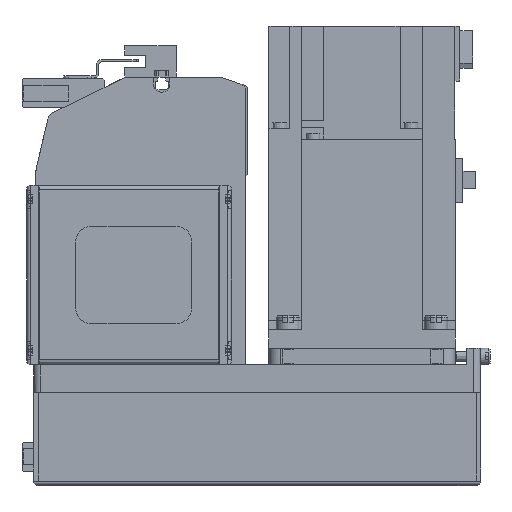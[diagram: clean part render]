
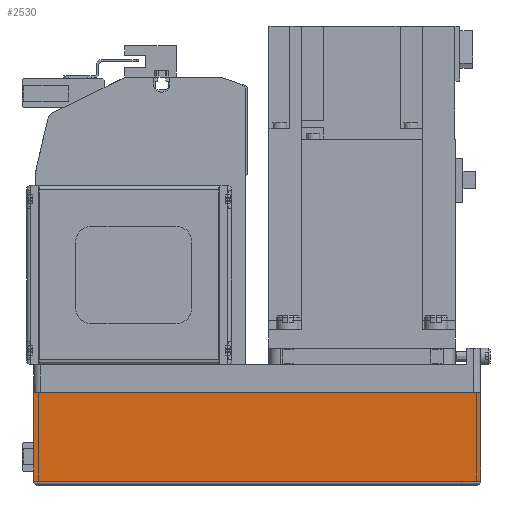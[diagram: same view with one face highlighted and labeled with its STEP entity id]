
A CAD part, left-side view. The second image highlights one B-rep face of the part: STEP entity #2530.
In plain terms, the highlighted planar face has unit normal (-1, 0, 0) as drawn and (0, 1, 0) by its records, which use the part's own axes.
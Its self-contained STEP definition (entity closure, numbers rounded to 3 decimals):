
#2530 = ADVANCED_FACE( '', ( #5687 ), #5688, .T. );
#5687 = FACE_OUTER_BOUND( '', #9429, .T. );
#5688 = PLANE( '', #9430 );
#9429 = EDGE_LOOP( '', ( #16637, #16638, #16639, #16640 ) );
#9430 = AXIS2_PLACEMENT_3D( '', #16641, #16642, #16643 );
#16637 = ORIENTED_EDGE( '', *, *, #23117, .F. );
#16638 = ORIENTED_EDGE( '', *, *, #21150, .F. );
#16639 = ORIENTED_EDGE( '', *, *, #23741, .T. );
#16640 = ORIENTED_EDGE( '', *, *, #21053, .T. );
#16641 = CARTESIAN_POINT( '', ( -192., 40., -50. ) );
#16642 = DIRECTION( '', ( 0., 1., 0. ) );
#16643 = DIRECTION( '', ( 0., 0., 1. ) );
#21053 = EDGE_CURVE( '', #24982, #24980, #24983, .T. );
#21150 = EDGE_CURVE( '', #25147, #24880, #25150, .T. );
#23117 = EDGE_CURVE( '', #24880, #24980, #28400, .T. );
#23741 = EDGE_CURVE( '', #25147, #24982, #29261, .T. );
#24880 = VERTEX_POINT( '', #30620 );
#24980 = VERTEX_POINT( '', #30803 );
#24982 = VERTEX_POINT( '', #30806 );
#24983 = LINE( '', #30807, #30808 );
#25147 = VERTEX_POINT( '', #31029 );
#25150 = LINE( '', #31032, #31033 );
#28400 = LINE( '', #35911, #35912 );
#29261 = LINE( '', #37516, #37517 );
#30620 = CARTESIAN_POINT( '', ( 0., 40., -50. ) );
#30803 = CARTESIAN_POINT( '', ( 0., 40., -12.1 ) );
#30806 = CARTESIAN_POINT( '', ( -192., 40., -12.1 ) );
#30807 = CARTESIAN_POINT( '', ( -192., 40., -12.1 ) );
#30808 = VECTOR( '', #39507, 1000. );
#31029 = CARTESIAN_POINT( '', ( -192., 40., -50. ) );
#31032 = CARTESIAN_POINT( '', ( -192., 40., -50. ) );
#31033 = VECTOR( '', #39623, 1000. );
#35911 = CARTESIAN_POINT( '', ( 0., 40., -50. ) );
#35912 = VECTOR( '', #42219, 1000. );
#37516 = CARTESIAN_POINT( '', ( -192., 40., -50. ) );
#37517 = VECTOR( '', #42905, 1000. );
#39507 = DIRECTION( '', ( 1., 0., 0. ) );
#39623 = DIRECTION( '', ( 1., 0., 0. ) );
#42219 = DIRECTION( '', ( 0., 0., 1. ) );
#42905 = DIRECTION( '', ( 0., 0., 1. ) );
